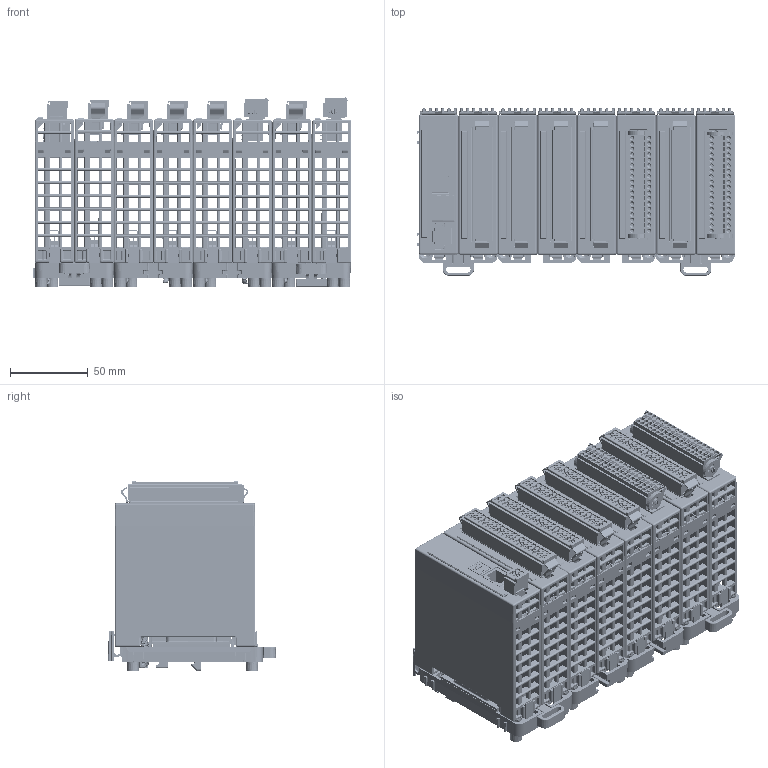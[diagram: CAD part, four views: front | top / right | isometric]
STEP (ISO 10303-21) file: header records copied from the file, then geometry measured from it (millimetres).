
FILE_DESCRIPTION((''),'2;1');
FILE_NAME('R_BUS8_ASSY','2019-06-07T12:58:42',('paolo.garatti'),('GEFRAN S.p.A via Carducci,24 21040 Gerenzano (VA)'),'CREO PARAMETRIC BY PTC INC, 2018300','CREO PARAMETRIC BY PTC INC, 2018300','');
FILE_SCHEMA(('AUTOMOTIVE_DESIGN { 1 0 10303 214 1 1 1 1 }'));
Products named in the file (98): 5661DX; 5664DX; 4920D_452511; 5662DX; R_BUS8; 5659DX; 4891DX; 4894D_452525; PRESA_RETE; ROTARY; CONN_WAGO_2PIN; CONN_3X18M_90_KONTEK; MOLLA; 5660DX; 734120037000-2POLI_DX_AF0; 734120037000-2POLI_SX_AF0; 734120037000-2POLI; R_ETH100; 5663DX; 4893D_452533; 734180; 734120037000; R_E16; R_U16; 4890D_452564; 5665DX; 1728620000; MSBR-65; MSBR-64; MSBR-63; MSBR-62; MSBR-61; MSBR-60; MSBR-59; MSBR-58; MSBR-57; MSBR-56; MSBR-55; MSBR-54; MSBR-53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
Assembly tree (138 placements, depth 4):
  R_BUS8_ASSY
    R_BUS8
      5661DX  x4
      5664DX  x2
      4920D_452511
      5662DX  x4
    R_ETH100
      5659DX
      4891DX
      4894D_452525
      PRESA_RETE
      ROTARY
      CONN_WAGO_2PIN
      CONN_3X18M_90_KONTEK
      MOLLA
      5660DX
      734120037000-2POLI
        734120037000-2POLI_DX_AF0
        734120037000-2POLI_SX_AF0
    R_E16  x2
      5659DX
      5663DX
      4893D_452533
      MOLLA
      CONN_3X18M_90_KONTEK
      5660DX
      734180
      734120037000
    R_U16  x2
      5659DX
      5663DX
      4893D_452533
      MOLLA
      CONN_3X18M_90_KONTEK
      5660DX
      734180
      734120037000
    R_AD8
      5659DX
      4890D_452564
      5665DX
      MOLLA
      CONN_3X18M_90_KONTEK
      1728620000
      5660DX
      B2L_3_5_36LH_SN_SW_1748640000
        MSBR-65
        MSBR-64
        MSBR-63
        MSBR-62
        MSBR-61
        MSBR-60
        MSBR-59
        MSBR-58
        MSBR-57
        MSBR-56
        MSBR-55
        MSBR-54
        MSBR-53
        MSBR-52
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Bounding box: 204.5 x 107.64 x 122.01 mm (x, y, z)
Volume: 606780.9 mm3; surface area: 800076.6 mm2
Topology: 208 solids, 208 shells, 48088 faces, 138984 edges, 92814 vertices
Faces by surface type: plane 35088, cylinder 9923, bspline 1918, cone 580, sphere 441, torus 88, extrusion 48, revolution 2
Entity records: 644371 total; most frequent: CARTESIAN_POINT 128022, ORIENTED_EDGE 77872, DIRECTION 65976, EDGE_CURVE 38936, PRESENTATION_STYLE_ASSIGNMENT 36034, STYLED_ITEM 34851, CURVE_STYLE 30215, VECTOR 29201
